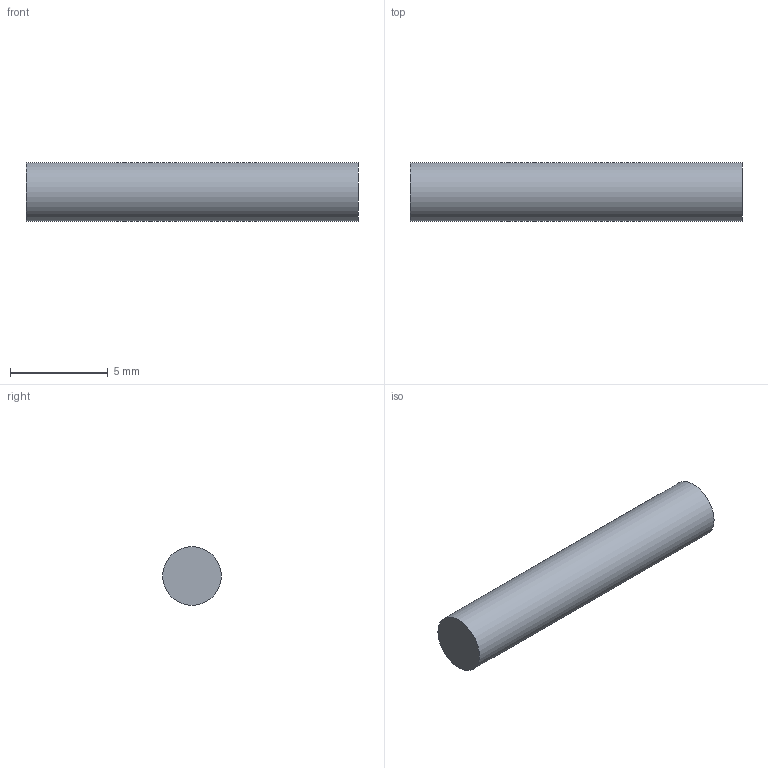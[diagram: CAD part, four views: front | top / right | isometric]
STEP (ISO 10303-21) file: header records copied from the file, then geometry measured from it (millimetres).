
FILE_DESCRIPTION(('Open CASCADE Model'),'2;1');
FILE_NAME('Open CASCADE Shape Model','2026-11-25T12:52:00',('Author'),( 'Open CASCADE'),'Open CASCADE STEP processor 8.0','Open CASCADE 8.0' ,'Unknown');
FILE_SCHEMA(('AP242_MANAGED_MODEL_BASED_3D_ENGINEERING_MIM_LF {1 0 10303 442 1 1 4 }' ));
Length unit declared in the file: millimetre
Products named in the file (1): Hinge pin
Bounding box: 17 x 3 x 3 mm (x, y, z)
Volume: 120.2 mm3; surface area: 174.4 mm2
Topology: 1 solids, 1 shells, 3 faces, 3 edges, 2 vertices
Faces by surface type: plane 2, cylinder 1
Full cylindrical faces by diameter (mm): 3 x1
Entity records: 117 total; most frequent: DIRECTION 19, CARTESIAN_POINT 15, AXIS2_PLACEMENT_3D 6, ORIENTED_EDGE 6, PCURVE 6, DEFINITIONAL_REPRESENTATION 6, LINE 5, VECTOR 5
